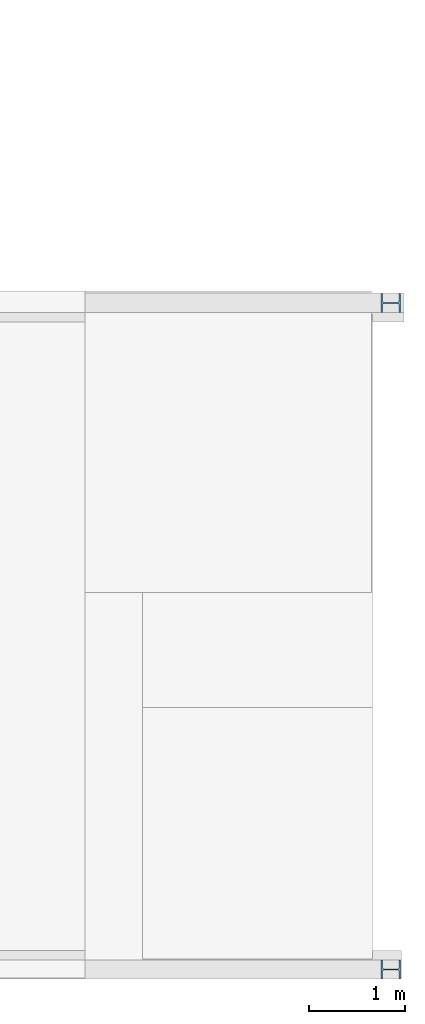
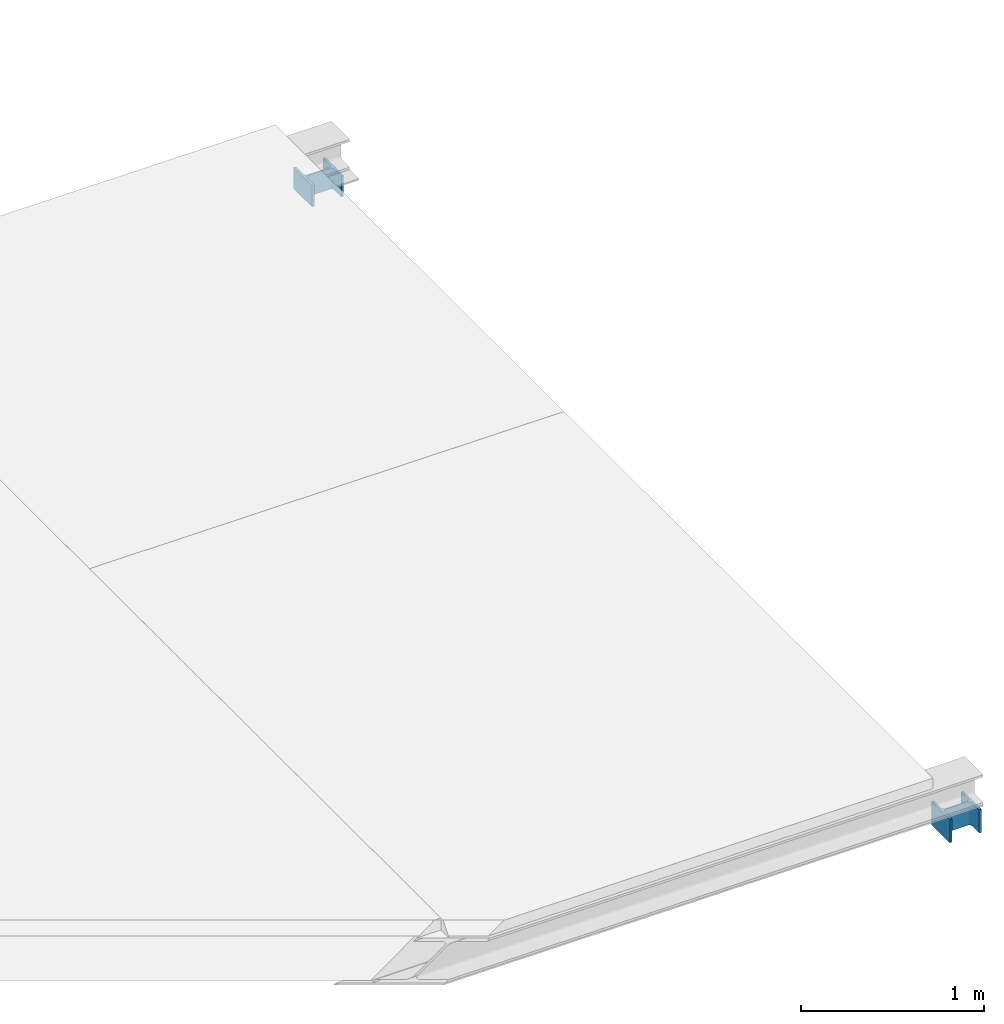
# One storey, part 2 of 14: 2 columns.
"""IFC2X3 building model written with IfcOpenShell, lengths in millimetres."""

import ifcopenshell
import ifcopenshell.guid

model = None  # the IFC model being written
_history = None  # IfcOwnerHistory: only IFC2X3 demands one
_inside = {}  # id of a spatial element -> (the spatial element, [elements in it])
_under = {}  # id of a project, library or spatial element -> (it, [spatial elements below it])
_declared = {}  # id of a project -> (the project, [libraries it declares])
_typed = {}  # id of a type object -> (the type object, [elements of that type])
_made_of = {}  # id of a material, layer set ... -> (it, [elements and type objects made of it])


def new_model(schema):
    """Start an empty IFC model of exactly this schema.

    Asked for "IFC4X3", IfcOpenShell would pick the latest addendum, in which some entities
    have other attributes; the version numbers below select the first issue.
    IFC2X3 requires an IfcOwnerHistory on every rooted entity: one is made here for all.
    """
    global model, _history
    if schema == "IFC4X3":
        model = ifcopenshell.file(schema_version=(4, 3, 0, 0))
    else:
        model = ifcopenshell.file(schema=schema)
    _inside.clear()
    _under.clear()
    _declared.clear()
    _typed.clear()
    _made_of.clear()
    _history = None
    if model.schema == "IFC2X3":
        org = make("IfcOrganization", Name="unknown")
        user = make(
            "IfcPersonAndOrganization",
            ThePerson=make("IfcPerson", FamilyName="unknown"),
            TheOrganization=org,
        )
        app = make(
            "IfcApplication",
            ApplicationDeveloper=org,
            Version="unknown",
            ApplicationFullName="unknown",
            ApplicationIdentifier="unknown",
        )
        _history = make(
            "IfcOwnerHistory",
            OwningUser=user,
            OwningApplication=app,
            ChangeAction="ADDED",
            CreationDate=0,
        )
    return model


def make(cls, **values):
    """One entity of the class cls with the attributes given. An attribute that is None is left unset."""
    return model.create_entity(
        cls, **{name: value for name, value in values.items() if value is not None}
    )


def entity(cls, *values):
    """Any entity or typed value of the class cls, its attributes in the order of the schema. None: left unset."""
    e = model.create_entity(cls)
    for i, value in enumerate(values):
        if value is not None:
            e[i] = value
    return e


def rooted(cls, **values):
    """An entity with a GlobalId (a new one), such as an element, a storey or a relation."""
    return make(cls, GlobalId=ifcopenshell.guid.new(), OwnerHistory=_history, **values)


def si_unit(unit_type, name, prefix=None):
    """IfcSIUnit, for example si_unit("LENGTHUNIT", "METRE", prefix="MILLI")."""
    return make("IfcSIUnit", UnitType=unit_type, Prefix=prefix, Name=name)


def converted_unit(unit_type, name, factor, base, dimensions=None, offset=None):
    """IfcConversionBasedUnit, such as the inch: factor (a typed value) times the base unit."""
    return make(
        "IfcConversionBasedUnit"
        if offset is None
        else "IfcConversionBasedUnitWithOffset",
        ConversionOffset=offset,
        Dimensions=None
        if dimensions is None
        else entity("IfcDimensionalExponents", *dimensions),
        UnitType=unit_type,
        Name=name,
        ConversionFactor=make(
            "IfcMeasureWithUnit", ValueComponent=factor, UnitComponent=base
        ),
    )


def derived_unit(unit_type, elements):
    """IfcDerivedUnit: a product of units, each with its exponent."""
    return make(
        "IfcDerivedUnit",
        Elements=[
            make("IfcDerivedUnitElement", Unit=unit, Exponent=power)
            for unit, power in elements
        ],
        UnitType=unit_type,
    )


def assignment(units):
    """IfcUnitAssignment: the units of a project."""
    return None if units is None else make("IfcUnitAssignment", Units=units)


def point(xyz):
    """IfcCartesianPoint."""
    return None if xyz is None else make("IfcCartesianPoint", Coordinates=xyz)


def direction(xyz):
    """IfcDirection."""
    return None if xyz is None else make("IfcDirection", DirectionRatios=xyz)


def frame(location, z_axis=None, x_axis=None):
    """IfcAxis2Placement3D, a coordinate frame: its origin and axes. An axis left out is left unset."""
    return make(
        "IfcAxis2Placement3D",
        Location=point(location),
        Axis=direction(z_axis),
        RefDirection=direction(x_axis),
    )


def frame_2d(location, x_axis=None):
    """IfcAxis2Placement2D, a coordinate frame in the plane: its origin and x axis."""
    return make(
        "IfcAxis2Placement2D", Location=point(location), RefDirection=direction(x_axis)
    )


def origin():
    """The frame at (0, 0, 0) with its axes left unset."""
    return frame((0.0, 0.0, 0.0))


def place(relative_to, where):
    """IfcLocalPlacement: puts the frame where relative to a parent placement (None: the world)."""
    return make(
        "IfcLocalPlacement", PlacementRelTo=relative_to, RelativePlacement=where
    )


def context(
    kind, dimensions, precision=None, world=None, true_north=None, identifier=None
):
    """IfcGeometricRepresentationContext, for example the 3D "Model" context."""
    return make(
        "IfcGeometricRepresentationContext",
        ContextIdentifier=identifier,
        ContextType=kind,
        CoordinateSpaceDimension=dimensions,
        Precision=precision,
        WorldCoordinateSystem=world,
        TrueNorth=true_north,
    )


def subcontext(parent, identifier, kind, view, scale=None):
    """IfcGeometricRepresentationSubContext, for example "Body" below "Model"."""
    return make(
        "IfcGeometricRepresentationSubContext",
        ContextIdentifier=identifier,
        ContextType=kind,
        ParentContext=parent,
        TargetScale=scale,
        TargetView=view,
    )


def project(units=None, contexts=None):
    """IfcProject with its units and contexts."""
    return rooted(
        "IfcProject",
        Name="project",
        RepresentationContexts=contexts,
        UnitsInContext=assignment(units),
    )


def spatial(cls, under=None, at=None, **own):
    """A site, building, storey or space (cls), placed at a placement, below another one or the project."""
    s = rooted(cls, ObjectPlacement=at, **own)
    if under is not None:
        _under.setdefault(under.id(), (under, []))[1].append(s)
    return s


def polyline(points):
    """IfcPolyline through the points."""
    return make("IfcPolyline", Points=[point(p) for p in points])


def circle_curve(where, radius):
    """IfcCircle in the frame where."""
    return make("IfcCircle", Position=where, Radius=radius)


def parameter(value):
    """IfcParameterValue: where a trimmed curve begins or ends, as a parameter of its basis curve."""
    return model.create_entity("IfcParameterValue", value)


def trimmed(basis, trim1, trim2, sense, master):
    """IfcTrimmedCurve: the piece of a basis curve between two trims."""
    return make(
        "IfcTrimmedCurve",
        BasisCurve=basis,
        Trim1=trim1,
        Trim2=trim2,
        SenseAgreement=sense,
        MasterRepresentation=master,
    )


def segment(curve, same_sense, transition):
    """IfcCompositeCurveSegment."""
    return make(
        "IfcCompositeCurveSegment",
        Transition=transition,
        SameSense=same_sense,
        ParentCurve=curve,
    )


def composite_curve(segments, self_intersect=None):
    """IfcCompositeCurve: segments joined end to end."""
    return make("IfcCompositeCurve", Segments=segments, SelfIntersect=self_intersect)


def outline(outer, holes=None, kind="AREA"):
    """IfcArbitraryClosedProfileDef: a profile drawn as a closed curve; with holes, ...WithVoids."""
    if holes is None:
        return make("IfcArbitraryClosedProfileDef", ProfileType=kind, OuterCurve=outer)
    return make(
        "IfcArbitraryProfileDefWithVoids",
        ProfileType=kind,
        OuterCurve=outer,
        InnerCurves=holes,
    )


def extrude(swept, where, along, depth):
    """IfcExtrudedAreaSolid: the profile swept, set in the frame where, extruded along a direction by depth."""
    return make(
        "IfcExtrudedAreaSolid",
        SweptArea=swept,
        Position=where,
        ExtrudedDirection=direction(along),
        Depth=depth,
    )


def shape(context_of_items, identifier, shape_type, items):
    """IfcShapeRepresentation: the items that make up one representation, for example the "Body"."""
    return make(
        "IfcShapeRepresentation",
        ContextOfItems=context_of_items,
        RepresentationIdentifier=identifier,
        RepresentationType=shape_type,
        Items=items,
    )


def source(mapping_origin, context_of_items, identifier, shape_type, items):
    """IfcRepresentationMap: a shape defined once, which mapped items show again and again."""
    return make(
        "IfcRepresentationMap",
        MappingOrigin=mapping_origin,
        MappedRepresentation=shape(context_of_items, identifier, shape_type, items),
    )


def transform(
    local_origin,
    x_axis=None,
    y_axis=None,
    z_axis=None,
    scale=None,
    scale2=None,
    scale3=None,
    uniform=True,
):
    """IfcCartesianTransformationOperator3D, or its non-uniform kind. x_axis, y_axis, z_axis: its Axis1, 2, 3."""
    if uniform:
        return make(
            "IfcCartesianTransformationOperator3D",
            Axis1=direction(x_axis),
            Axis2=direction(y_axis),
            LocalOrigin=point(local_origin),
            Scale=scale,
            Axis3=direction(z_axis),
        )
    return make(
        "IfcCartesianTransformationOperator3DnonUniform",
        Axis1=direction(x_axis),
        Axis2=direction(y_axis),
        LocalOrigin=point(local_origin),
        Scale=scale,
        Axis3=direction(z_axis),
        Scale2=scale2,
        Scale3=scale3,
    )


def mapped(mapping_source, mapping_target):
    """IfcMappedItem: shows the shape of a source again, moved by a transform."""
    return make(
        "IfcMappedItem", MappingSource=mapping_source, MappingTarget=mapping_target
    )


def material(Name=None, Category=None):
    """IfcMaterial."""
    return make("IfcMaterial", Name=Name, Category=Category)


def made_of(thing, what):
    """Note that an element or type object is made of a material, layer set ...; save() writes the relation."""
    if what is not None:
        _made_of.setdefault(what.id(), (what, []))[1].append(thing)
    return thing


def type_object(cls, material=None, **own):
    """A type object (cls), such as IfcWallType, which elements share."""
    return made_of(rooted(cls, **own), material)


def type_shapes(of_type, sources):
    """Give a type object the sources (RepresentationMaps) that its elements show as mapped items."""
    of_type.RepresentationMaps = sources


def element(
    cls,
    number,
    at=None,
    inside=None,
    cuts=None,
    type_object=None,
    material=None,
    context=None,
    identifier="Body",
    shape_type=None,
    held_by="IfcProductDefinitionShape",
    body=None,
    shapes=None,
    **own,
):
    """One element of the class cls, such as IfcWall. Its Tag is "e" and its number.

    at: its placement. inside: the storey or other place that contains it. cuts: it is an
    opening in that element (IfcRelVoidsElement). A single representation is given by context,
    identifier, shape_type and body (its items); several are given by shapes. held_by: the class
    of the entity that holds the representations. save() writes the other relations.
    """
    e = rooted(cls, Tag="e%d" % number, ObjectPlacement=at, **own)
    if body is not None:
        shapes = [shape(context, identifier, shape_type, body)]
    if shapes is not None:
        e.Representation = make(held_by, Representations=shapes)
    if inside is not None:
        _inside.setdefault(inside.id(), (inside, []))[1].append(e)
    if cuts is not None:
        rooted(
            "IfcRelVoidsElement", RelatingBuildingElement=cuts, RelatedOpeningElement=e
        )
    if type_object is not None:
        _typed.setdefault(type_object.id(), (type_object, []))[1].append(e)
    return made_of(e, material)


def aggregate(whole, parts):
    """IfcRelAggregates: a whole, such as a stair, and the parts it consists of."""
    return rooted("IfcRelAggregates", RelatingObject=whole, RelatedObjects=parts)


def save(model, path):
    """Write the relations noted so far, then the file.

    IfcRelAggregates (storeys below a building ...), IfcRelContainedInSpatialStructure (elements
    in a storey), IfcRelDefinesByType, IfcRelAssociatesMaterial and IfcRelDeclares: one each for
    every whole, place, type object, material and project.
    """
    for whole, parts in _under.values():
        aggregate(whole, parts)
    for where, things in _inside.values():
        rooted(
            "IfcRelContainedInSpatialStructure",
            RelatedElements=things,
            RelatingStructure=where,
        )
    for kind, things in _typed.values():
        rooted("IfcRelDefinesByType", RelatedObjects=things, RelatingType=kind)
    for what, things in _made_of.values():
        rooted("IfcRelAssociatesMaterial", RelatedObjects=things, RelatingMaterial=what)
    for by, libraries in _declared.values():
        rooted("IfcRelDeclares", RelatingContext=by, RelatedDefinitions=libraries)
    model.write(path)


model = new_model("IFC2X3")

# Units and contexts
model_context = context("Model", 3, precision=0.01, world=origin(), true_north=direction((6.12303176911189e-17, 1.0)))
body_context = subcontext(model_context, "Body", "Model", "MODEL_VIEW")
ifc_project = project(units=[si_unit("LENGTHUNIT", "METRE", prefix="MILLI"), si_unit("AREAUNIT", "SQUARE_METRE"), si_unit("VOLUMEUNIT", "CUBIC_METRE"), converted_unit("PLANEANGLEUNIT", "DEGREE", entity("IfcRatioMeasure", 0.0174532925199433), si_unit("PLANEANGLEUNIT", "RADIAN"), dimensions=[0, 0, 0, 0, 0, 0, 0]), si_unit("MASSUNIT", "GRAM", prefix="KILO"), derived_unit("MASSDENSITYUNIT", [(si_unit("MASSUNIT", "GRAM", prefix="KILO"), 1), (si_unit("LENGTHUNIT", "METRE"), -3)]), si_unit("TIMEUNIT", "SECOND"), si_unit("FREQUENCYUNIT", "HERTZ"), si_unit("THERMODYNAMICTEMPERATUREUNIT", "DEGREE_CELSIUS"), derived_unit("THERMALTRANSMITTANCEUNIT", [(si_unit("MASSUNIT", "GRAM", prefix="KILO"), 1), (si_unit("THERMODYNAMICTEMPERATUREUNIT", "KELVIN"), -1), (si_unit("TIMEUNIT", "SECOND"), -3)]), derived_unit("VOLUMETRICFLOWRATEUNIT", [(si_unit("LENGTHUNIT", "METRE"), 3), (si_unit("TIMEUNIT", "SECOND"), -1)]), si_unit("ELECTRICCURRENTUNIT", "AMPERE"), si_unit("ELECTRICVOLTAGEUNIT", "VOLT"), si_unit("POWERUNIT", "WATT"), si_unit("FORCEUNIT", "NEWTON", prefix="KILO"), si_unit("ILLUMINANCEUNIT", "LUX"), si_unit("LUMINOUSFLUXUNIT", "LUMEN"), si_unit("LUMINOUSINTENSITYUNIT", "CANDELA"), derived_unit("USERDEFINED", [(si_unit("MASSUNIT", "GRAM", prefix="KILO"), -1), (si_unit("LENGTHUNIT", "METRE"), -2), (si_unit("TIMEUNIT", "SECOND"), 3), (si_unit("LUMINOUSFLUXUNIT", "LUMEN"), 1)]), derived_unit("LINEARVELOCITYUNIT", [(si_unit("LENGTHUNIT", "METRE"), 1), (si_unit("TIMEUNIT", "SECOND"), -1)]), si_unit("PRESSUREUNIT", "PASCAL"), derived_unit("USERDEFINED", [(si_unit("LENGTHUNIT", "METRE"), -2), (si_unit("MASSUNIT", "GRAM", prefix="KILO"), 1), (si_unit("TIMEUNIT", "SECOND"), -2)])], contexts=[model_context])

# Site, building, storey
site_placement = place(None, origin())
site = spatial("IfcSite", under=ifc_project, at=site_placement, Name="Default", CompositionType="ELEMENT")
building_placement = place(site_placement, origin())
building = spatial("IfcBuilding", under=site, at=building_placement, Name="niet gebruiken", CompositionType="ELEMENT")
storey_placement = place(building_placement, frame((0.0, 0.0, 15570.0)))
storey = spatial("IfcBuildingStorey", under=building, at=storey_placement, Name="05 vijfde verdieping", CompositionType="ELEMENT", Elevation=15570.0)

# Columns
ifc_material = material(Name="NLRS_h2_staal")
column_type_1 = type_object("IfcColumnType", Name="kolom HEB 200", PredefinedType="COLUMN", material=ifc_material)
shared_shape_1 = source(origin(), body_context, "Body", "SweptSolid", [
    extrude(outline(composite_curve([segment(polyline([(85.0, -100.0), (100.0, -100.0)]), True, "CONTINUOUS"), segment(polyline([(100.0, -100.0), (100.0, 100.0)]), True, "CONTINUOUS"), segment(polyline([(100.0, 100.0), (85.0, 100.0)]), True, "CONTINUOUS"), segment(polyline([(85.0, 100.0), (85.0, 22.499999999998)]), True, "CONTINUOUS"), segment(trimmed(circle_curve(frame_2d((67.0, 22.4999999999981), x_axis=(1.0, 0.0)), 18.0), [parameter(270.0)], [parameter(0.0)], True, "PARAMETER"), False, "CONTINUOUS"), segment(polyline([(67.0, 4.49999999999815), (-67.0, 4.49999999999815)]), True, "CONTINUOUS"), segment(trimmed(circle_curve(frame_2d((-67.0, 22.4999999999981), x_axis=(0.0, -1.0)), 18.0), [parameter(270.0)], [parameter(0.0)], True, "PARAMETER"), False, "CONTINUOUS"), segment(polyline([(-85.0, 22.4999999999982), (-85.0, 100.0)]), True, "CONTINUOUS"), segment(polyline([(-85.0, 100.0), (-100.0, 100.0)]), True, "CONTINUOUS"), segment(polyline([(-100.0, 100.0), (-100.0, -100.0)]), True, "CONTINUOUS"), segment(polyline([(-100.0, -100.0), (-85.0, -100.0)]), True, "CONTINUOUS"), segment(polyline([(-85.0, -100.0), (-85.0, -22.5000000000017)]), True, "CONTINUOUS"), segment(trimmed(circle_curve(frame_2d((-67.0, -22.5000000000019), x_axis=(-1.0, 0.0)), 18.0), [parameter(270.0)], [parameter(0.0)], True, "PARAMETER"), False, "CONTINUOUS"), segment(polyline([(-67.0, -4.50000000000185), (67.0, -4.50000000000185)]), True, "CONTINUOUS"), segment(trimmed(circle_curve(frame_2d((67.0, -22.5000000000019), x_axis=(0.0, 1.0)), 18.0), [parameter(270.0)], [parameter(0.0)], True, "PARAMETER"), False, "CONTINUOUS"), segment(polyline([(85.0, -22.5000000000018), (85.0, -100.0)]), True, "CONTINUOUS")], self_intersect=False)), frame((0.0, 0.0, 14940.0), z_axis=(0.0, 0.0, 1.0), x_axis=(0.0, -1.0, 0.0)), (0.0, 0.0, 1.0), 154.999999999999),
])
type_shapes(column_type_1, [shared_shape_1])
column_1_placement = place(storey_placement, frame((124850.0, 1660.0, -15570.0), z_axis=(0.0, 0.0, 1.0), x_axis=(0.0, 1.0, 0.0)))
element("IfcColumn", 1, at=column_1_placement, inside=storey, type_object=column_type_1, material=ifc_material, Name="NLRS_28.11_SCO_TLB_stalen kolom HEB_gen:kolom HEB 200", ObjectType="kolom HEB 200", context=body_context, shape_type="MappedRepresentation", body=[
    mapped(shared_shape_1, transform((0.0, 0.0, 0.0), scale=1.0)),
])
column_type_2 = type_object("IfcColumnType", Name="kolom HEB 200", PredefinedType="COLUMN", material=ifc_material)
shared_shape_2 = source(origin(), body_context, "Body", "SweptSolid", [
    extrude(outline(composite_curve([segment(polyline([(85.0, -100.0), (100.0, -100.0)]), True, "CONTINUOUS"), segment(polyline([(100.0, -100.0), (100.0, 100.0)]), True, "CONTINUOUS"), segment(polyline([(100.0, 100.0), (85.0, 100.0)]), True, "CONTINUOUS"), segment(polyline([(85.0, 100.0), (85.0, 22.499999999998)]), True, "CONTINUOUS"), segment(trimmed(circle_curve(frame_2d((67.0, 22.4999999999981), x_axis=(1.0, 0.0)), 18.0), [parameter(270.0)], [parameter(0.0)], True, "PARAMETER"), False, "CONTINUOUS"), segment(polyline([(67.0, 4.49999999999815), (-67.0, 4.49999999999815)]), True, "CONTINUOUS"), segment(trimmed(circle_curve(frame_2d((-67.0, 22.4999999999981), x_axis=(0.0, -1.0)), 18.0), [parameter(270.0)], [parameter(0.0)], True, "PARAMETER"), False, "CONTINUOUS"), segment(polyline([(-85.0, 22.4999999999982), (-85.0, 100.0)]), True, "CONTINUOUS"), segment(polyline([(-85.0, 100.0), (-100.0, 100.0)]), True, "CONTINUOUS"), segment(polyline([(-100.0, 100.0), (-100.0, -100.0)]), True, "CONTINUOUS"), segment(polyline([(-100.0, -100.0), (-85.0, -100.0)]), True, "CONTINUOUS"), segment(polyline([(-85.0, -100.0), (-85.0, -22.5000000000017)]), True, "CONTINUOUS"), segment(trimmed(circle_curve(frame_2d((-67.0, -22.5000000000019), x_axis=(-1.0, 0.0)), 18.0), [parameter(270.0)], [parameter(0.0)], True, "PARAMETER"), False, "CONTINUOUS"), segment(polyline([(-67.0, -4.50000000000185), (67.0, -4.50000000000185)]), True, "CONTINUOUS"), segment(trimmed(circle_curve(frame_2d((67.0, -22.5000000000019), x_axis=(0.0, 1.0)), 18.0), [parameter(270.0)], [parameter(0.0)], True, "PARAMETER"), False, "CONTINUOUS"), segment(polyline([(85.0, -22.5000000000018), (85.0, -100.0)]), True, "CONTINUOUS")], self_intersect=False)), frame((0.0, 0.0, 14955.0), z_axis=(0.0, 0.0, 1.0), x_axis=(0.0, -1.0, 0.0)), (0.0, 0.0, 1.0), 140.000000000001),
])
type_shapes(column_type_2, [shared_shape_2])
column_2_placement = place(storey_placement, frame((124850.0, 8620.0, -15570.0), z_axis=(0.0, 0.0, 1.0), x_axis=(0.0, 1.0, 0.0)))
element("IfcColumn", 2, at=column_2_placement, inside=storey, type_object=column_type_2, material=ifc_material, Name="NLRS_28.11_SCO_TLB_stalen kolom HEB_gen:kolom HEB 200", ObjectType="kolom HEB 200", context=body_context, shape_type="MappedRepresentation", body=[
    mapped(shared_shape_2, transform((0.0, 0.0, 0.0), scale=1.0)),
])

save(model, "model.ifc")
